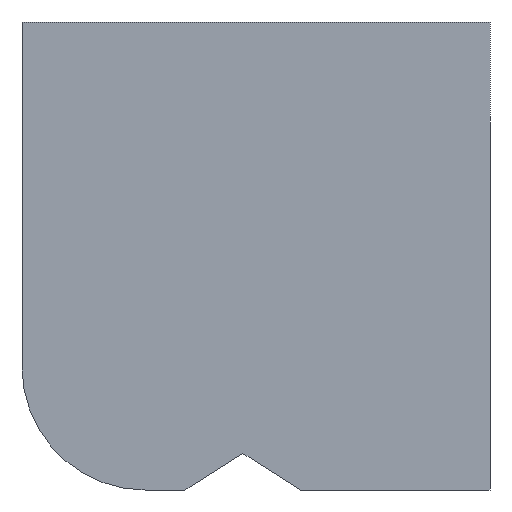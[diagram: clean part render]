
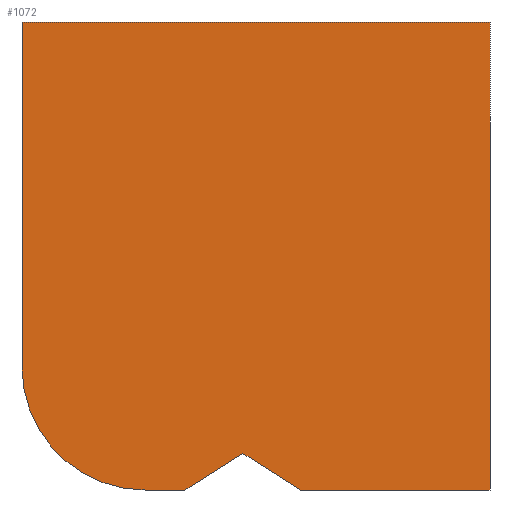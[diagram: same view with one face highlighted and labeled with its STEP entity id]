
A CAD part, left-side view. The second image highlights one B-rep face of the part: STEP entity #1072.
In plain terms, the highlighted planar face has unit normal (-1, 0, 0).
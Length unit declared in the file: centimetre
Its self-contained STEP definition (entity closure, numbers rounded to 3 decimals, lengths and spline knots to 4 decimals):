
#12 = DIRECTION ( 'NONE',  ( 0., 0.846, -0.533 ) ) ;
#14 = CARTESIAN_POINT ( 'NONE',  ( 0., 0., 1000. ) ) ;
#22 = VECTOR ( 'NONE', #1052, 100. ) ;
#27 = LINE ( 'NONE', #810, #1070 ) ;
#37 = EDGE_CURVE ( 'NONE', #156, #631, #27, .T. ) ;
#56 = EDGE_CURVE ( 'NONE', #507, #85, #978, .T. ) ;
#62 = DIRECTION ( 'NONE',  ( 0., -1., 0. ) ) ;
#78 = DIRECTION ( 'NONE',  ( 0., 0., -1. ) ) ;
#81 = VERTEX_POINT ( 'NONE', #798 ) ;
#85 = VERTEX_POINT ( 'NONE', #454 ) ;
#101 = LINE ( 'NONE', #14, #22 ) ;
#117 = ORIENTED_EDGE ( 'NONE', *, *, #1062, .F. ) ;
#139 = CARTESIAN_POINT ( 'NONE',  ( 0., 1000., 1000. ) ) ;
#141 = VERTEX_POINT ( 'NONE', #585 ) ;
#146 = CARTESIAN_POINT ( 'NONE',  ( 0., 1000., 1000. ) ) ;
#156 = VERTEX_POINT ( 'NONE', #657 ) ;
#177 = AXIS2_PLACEMENT_3D ( 'NONE', #146, #235, #78 ) ;
#222 = LINE ( 'NONE', #905, #741 ) ;
#232 = VERTEX_POINT ( 'NONE', #812 ) ;
#235 = DIRECTION ( 'NONE',  ( 1., 0., 0. ) ) ;
#240 = VECTOR ( 'NONE', #495, 100. ) ;
#295 = LINE ( 'NONE', #649, #240 ) ;
#329 = CARTESIAN_POINT ( 'NONE',  ( 0., 1000., 1000. ) ) ;
#344 = VECTOR ( 'NONE', #471, 100. ) ;
#365 = DIRECTION ( 'NONE',  ( 0., 0., -1. ) ) ;
#372 = CARTESIAN_POINT ( 'NONE',  ( 0., 1000., 262.9699 ) ) ;
#377 = CARTESIAN_POINT ( 'NONE',  ( 0., 737.0301, 262.9699 ) ) ;
#381 = DIRECTION ( 'NONE',  ( 0., -1., 0. ) ) ;
#403 = CARTESIAN_POINT ( 'NONE',  ( 0., 1000., 1000. ) ) ;
#412 = LINE ( 'NONE', #773, #959 ) ;
#417 = PLANE ( 'NONE',  #177 ) ;
#454 = CARTESIAN_POINT ( 'NONE',  ( 0., 737.0301, 0. ) ) ;
#471 = DIRECTION ( 'NONE',  ( 0., 0., -1. ) ) ;
#495 = DIRECTION ( 'NONE',  ( 0., 0.846, 0.533 ) ) ;
#496 = EDGE_LOOP ( 'NONE', ( #859, #976, #827, #950, #619, #117, #1003, #1069 ) ) ;
#500 = FACE_OUTER_BOUND ( 'NONE', #496, .T. ) ;
#502 = EDGE_CURVE ( 'NONE', #141, #232, #101, .T. ) ;
#507 = VERTEX_POINT ( 'NONE', #372 ) ;
#585 = CARTESIAN_POINT ( 'NONE',  ( 0., 0., 1000. ) ) ;
#600 = LINE ( 'NONE', #329, #680 ) ;
#619 = ORIENTED_EDGE ( 'NONE', *, *, #502, .F. ) ;
#631 = VERTEX_POINT ( 'NONE', #1009 ) ;
#649 = CARTESIAN_POINT ( 'NONE',  ( 0., 404.0261, 0. ) ) ;
#653 = EDGE_CURVE ( 'NONE', #918, #507, #841, .T. ) ;
#657 = CARTESIAN_POINT ( 'NONE',  ( 0., 527.931, 78.0388 ) ) ;
#680 = VECTOR ( 'NONE', #62, 100. ) ;
#723 = DIRECTION ( 'NONE',  ( -1., 0., 0. ) ) ;
#741 = VECTOR ( 'NONE', #381, 100. ) ;
#773 = CARTESIAN_POINT ( 'NONE',  ( 0., 1000., 0. ) ) ;
#798 = CARTESIAN_POINT ( 'NONE',  ( 0., 404.0261, 0. ) ) ;
#810 = CARTESIAN_POINT ( 'NONE',  ( 0., 527.931, 78.0388 ) ) ;
#812 = CARTESIAN_POINT ( 'NONE',  ( 0., 0., 0. ) ) ;
#827 = ORIENTED_EDGE ( 'NONE', *, *, #985, .F. ) ;
#841 = LINE ( 'NONE', #403, #344 ) ;
#859 = ORIENTED_EDGE ( 'NONE', *, *, #1112, .T. ) ;
#905 = CARTESIAN_POINT ( 'NONE',  ( 0., 1000., 0. ) ) ;
#918 = VERTEX_POINT ( 'NONE', #139 ) ;
#950 = ORIENTED_EDGE ( 'NONE', *, *, #952, .T. ) ;
#952 = EDGE_CURVE ( 'NONE', #81, #232, #222, .T. ) ;
#959 = VECTOR ( 'NONE', #1118, 100. ) ;
#976 = ORIENTED_EDGE ( 'NONE', *, *, #37, .F. ) ;
#978 = CIRCLE ( 'NONE', #1127, 262.9699 ) ;
#985 = EDGE_CURVE ( 'NONE', #81, #156, #295, .T. ) ;
#1003 = ORIENTED_EDGE ( 'NONE', *, *, #653, .T. ) ;
#1009 = CARTESIAN_POINT ( 'NONE',  ( 0., 651.8358, 0. ) ) ;
#1052 = DIRECTION ( 'NONE',  ( 0., 0., -1. ) ) ;
#1062 = EDGE_CURVE ( 'NONE', #918, #141, #600, .T. ) ;
#1069 = ORIENTED_EDGE ( 'NONE', *, *, #56, .T. ) ;
#1070 = VECTOR ( 'NONE', #12, 100. ) ;
#1072 = ADVANCED_FACE ( 'NONE', ( #500 ), #417, .F. ) ;
#1112 = EDGE_CURVE ( 'NONE', #85, #631, #412, .T. ) ;
#1118 = DIRECTION ( 'NONE',  ( 0., -1., 0. ) ) ;
#1127 = AXIS2_PLACEMENT_3D ( 'NONE', #377, #723, #365 ) ;
